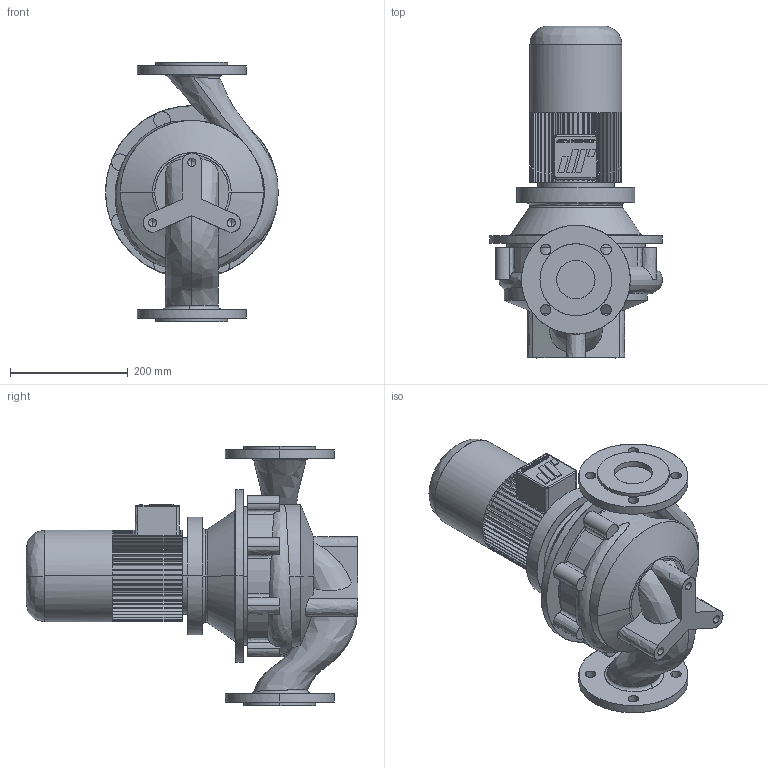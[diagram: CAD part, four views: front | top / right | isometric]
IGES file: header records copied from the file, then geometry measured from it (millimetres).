
Start section: CombiLine
Global section: file name: CLB_65-200_IEC80_ND10.igs; native system:  By UGS Corp.; preprocessor: XPlus GENERIC/IGES 3.0; author: Stageplaats; organization: Johnson Pump Water B.V.; date: 20070716.131003; units: millimetre
Bounding box: 293.39 x 563.5 x 440 mm (x, y, z)
Surface area: 774039.3 mm2 (no closed solid volume)
Topology: 0 solids, 0 shells, 542 faces, 3294 edges, 3288 vertices
Faces by surface type: bspline 542
